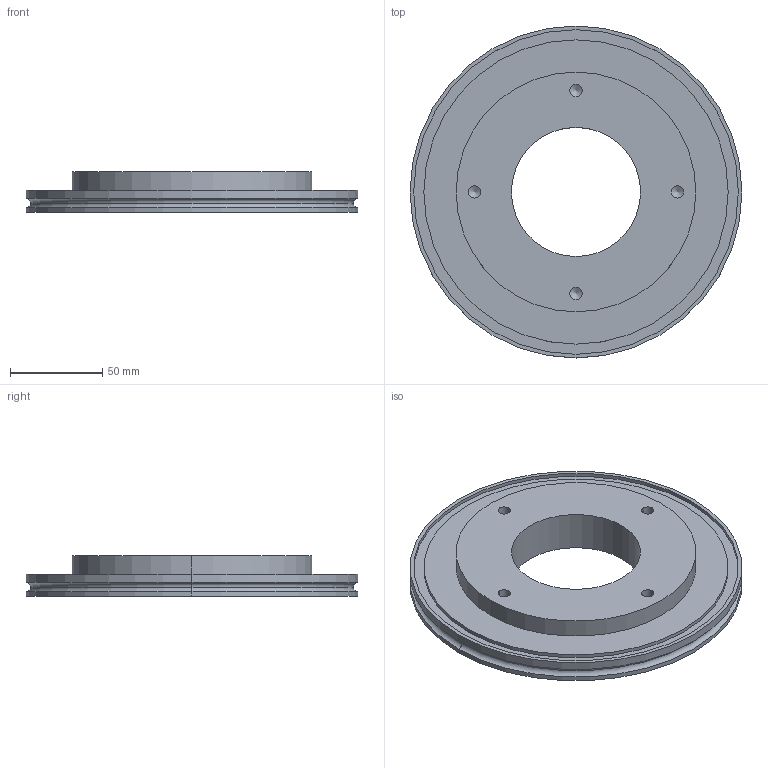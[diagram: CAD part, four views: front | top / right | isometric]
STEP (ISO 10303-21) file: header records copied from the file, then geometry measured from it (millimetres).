
FILE_DESCRIPTION((''),'2;1');
FILE_NAME('W:\212-152.stp','2004-01-08T09:58:32',('KAA'),(''),'Autodesk Inventor (R) 6.0','Autodesk Inventor (R) 6.0','');
FILE_SCHEMA(('CONFIG_CONTROL_DESIGN'));
Length unit declared in the file: millimetre
Products named in the file (1): 212-152
Bounding box: 180 x 180 x 22 mm (x, y, z)
Volume: 329276.3 mm3; surface area: 68126.8 mm2
Topology: 1 solids, 1 shells, 43 faces, 94 edges, 54 vertices
Faces by surface type: cylinder 16, bspline 16, plane 7, torus 4
Entity records: 1441 total; most frequent: CARTESIAN_POINT 456, DIRECTION 196, ORIENTED_EDGE 172, EDGE_CURVE 86, AXIS2_PLACEMENT_3D 82, VERTEX_POINT 54, CIRCLE 54, EDGE_LOOP 54
